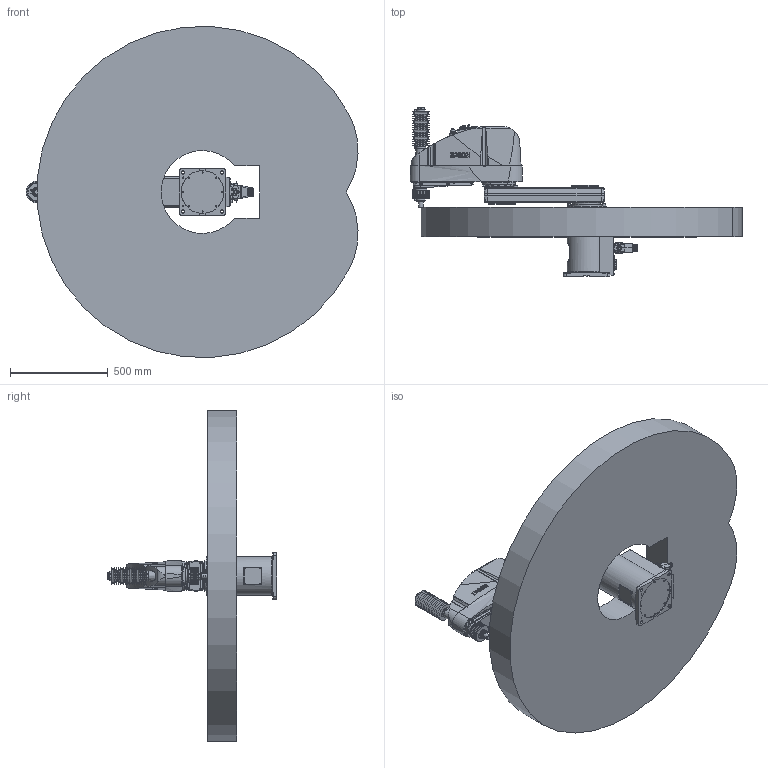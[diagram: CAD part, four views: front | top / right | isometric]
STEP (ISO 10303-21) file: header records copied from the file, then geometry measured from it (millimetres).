
FILE_DESCRIPTION( ( 'STEP AP214' ), '1' );
FILE_NAME( 'C:/Users/9607552/Desktop/GX20-B851C_straight.stp', '2023-08-01T09:28:58', ( '' ), ( '' ), ' ', 'PARTsolutions', ' ' );
FILE_SCHEMA( ( 'AUTOMOTIVE_DESIGN { 1 0 10303 214 1 1 1 1 }' ) );
Length unit declared in the file: millimetre
Products named in the file (7): GX20-B851CS-W; _Base c; _Straight-B; _J1 Arm GX10-450; _J2 Arm GX10-c; _J3 Arm GX10-c (1); _GX10_20B-23_1
Assembly tree (6 placements, depth 2):
  GX20-B851CS-W
    _Base c
    _Straight-B
    _J1 Arm GX10-450
    _J2 Arm GX10-c
    _J3 Arm GX10-c (1)
    _GX10_20B-23_1
Bounding box: 1702.55 x 870.5 x 1697.41 mm (x, y, z)
Volume: 352454260.4 mm3; surface area: 6894276.5 mm2
Topology: 6 solids, 6 shells, 2478 faces, 6100 edges, 3959 vertices
Faces by surface type: plane 1288, cylinder 734, cone 348, torus 70, bspline 37, sphere 1
Full cylindrical faces by diameter (mm): 1.18 x55, 2.5 x2, 3 x32, 3.242 x10, 3.3 x9, 4 x2, 4.2 x2, 4.8 x4, 5.1 x4, 5.34 x4, 5.5 x12, 6 x3, 6.2 x2, 6.647 x2, 7 x27, 7.5 x1, 8 x4, 8.5 x2, 9 x4, 10 x32, 10.5 x4, 11 x14, 12 x7, 12.25 x1, 13 x2, 14 x8, 14.25 x1, 16 x7, 18 x1, 20.4 x1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
Entity records: 93752 total; most frequent: CARTESIAN_POINT 17754, DIRECTION 11630, ORIENTED_EDGE 10740, EDGE_CURVE 5370, AXIS2_PLACEMENT_3D 4436, VERTEX_POINT 3854, EDGE_LOOP 3459, FACE_OUTER_BOUND 2828
